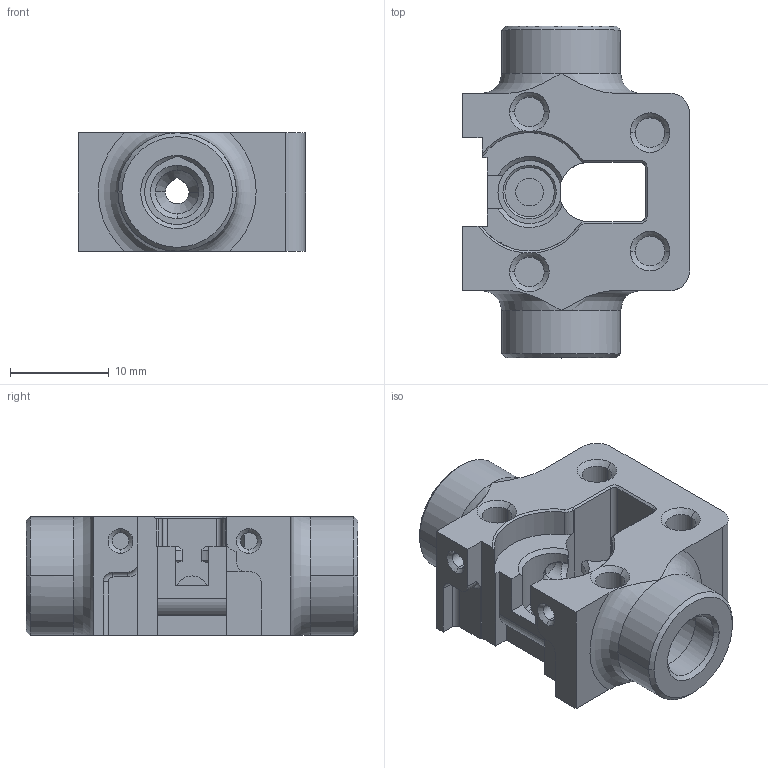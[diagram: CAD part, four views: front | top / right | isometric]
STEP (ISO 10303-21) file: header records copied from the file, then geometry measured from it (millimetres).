
FILE_DESCRIPTION((''),'2;1');
FILE_NAME('0003_23_GGG','2025-04-09T12:12:44',('Administrator'),(''),'CREO PARAMETRIC BY PTC INC, 2024063','CREO PARAMETRIC BY PTC INC, 2024063','');
FILE_SCHEMA(('CONFIG_CONTROL_DESIGN'));
Length unit declared in the file: millimetre
Products named in the file (1): 0003_23_GGG
Bounding box: 23 x 33.6 x 12 mm (x, y, z)
Volume: 4521.8 mm3; surface area: 3593.2 mm2
Topology: 1 solids, 1 shells, 206 faces, 570 edges, 375 vertices
Faces by surface type: plane 76, cylinder 60, cone 52, torus 10, bspline 8
Entity records: 7620 total; most frequent: CARTESIAN_POINT 2205, DIRECTION 1154, ORIENTED_EDGE 1140, EDGE_CURVE 570, AXIS2_PLACEMENT_3D 452, VERTEX_POINT 375, CIRCLE 254, VECTOR 250
